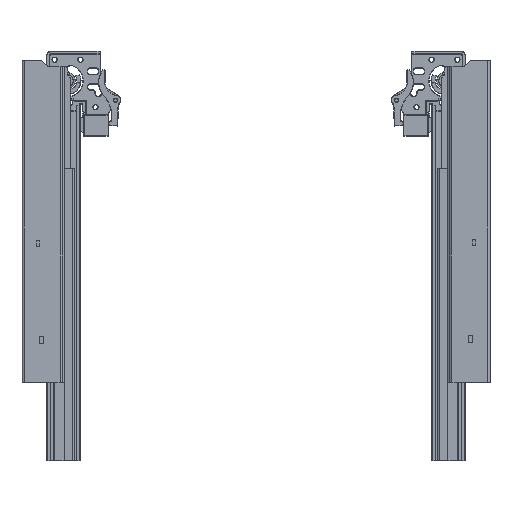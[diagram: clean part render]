
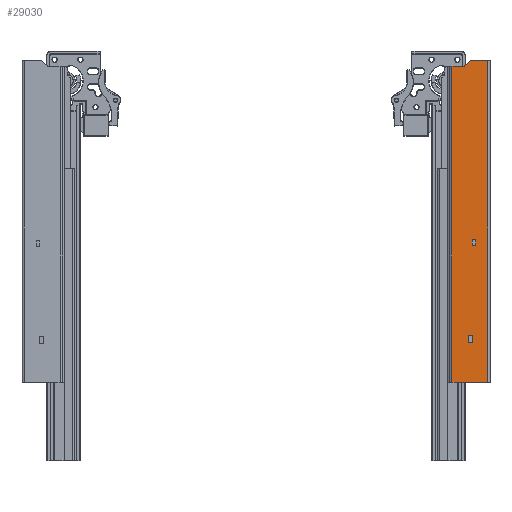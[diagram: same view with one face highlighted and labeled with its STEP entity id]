
A CAD part, front view. The second image highlights one B-rep face of the part: STEP entity #29030.
In plain terms, the highlighted planar face has unit normal (0, -1, 0).
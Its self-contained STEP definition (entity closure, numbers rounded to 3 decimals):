
#877=FACE_BOUND('',#6063,.T.);
#878=FACE_BOUND('',#6064,.T.);
#1187=CIRCLE('',#31018,2.);
#1189=CIRCLE('',#31022,2.);
#4128=FACE_OUTER_BOUND('',#6062,.T.);
#6062=EDGE_LOOP('',(#18963,#18964,#18965,#18966,#18967,#18968,#18969,#18970));
#6063=EDGE_LOOP('',(#18971,#18972,#18973,#18974));
#6064=EDGE_LOOP('',(#18975,#18976,#18977,#18978));
#8121=LINE('',#45211,#10031);
#8125=LINE('',#45219,#10035);
#8128=LINE('',#45225,#10038);
#8131=LINE('',#45230,#10041);
#8133=LINE('',#45236,#10043);
#8137=LINE('',#45244,#10047);
#8140=LINE('',#45250,#10050);
#8143=LINE('',#45255,#10053);
#8161=LINE('',#45312,#10071);
#8180=LINE('',#45364,#10090);
#8183=LINE('',#45375,#10093);
#8184=LINE('',#45378,#10094);
#8185=LINE('',#45380,#10095);
#8186=LINE('',#45381,#10096);
#10031=VECTOR('',#35344,5.);
#10035=VECTOR('',#35350,3.);
#10038=VECTOR('',#35355,5.);
#10041=VECTOR('',#35360,3.);
#10043=VECTOR('',#35366,6.);
#10047=VECTOR('',#35372,3.5);
#10050=VECTOR('',#35377,6.);
#10053=VECTOR('',#35382,3.5);
#10071=VECTOR('',#35436,5.414);
#10090=VECTOR('',#35481,9.672);
#10093=VECTOR('',#35492,270.);
#10094=VECTOR('',#35495,30.5);
#10095=VECTOR('',#35496,275.);
#10096=VECTOR('',#35497,14.172);
#11983=VERTEX_POINT('',#45209);
#11984=VERTEX_POINT('',#45210);
#11987=VERTEX_POINT('',#45218);
#11989=VERTEX_POINT('',#45224);
#11991=VERTEX_POINT('',#45234);
#11992=VERTEX_POINT('',#45235);
#11995=VERTEX_POINT('',#45243);
#11997=VERTEX_POINT('',#45249);
#12017=VERTEX_POINT('',#45305);
#12018=VERTEX_POINT('',#45307);
#12019=VERTEX_POINT('',#45311);
#12022=VERTEX_POINT('',#45319);
#12039=VERTEX_POINT('',#45362);
#12043=VERTEX_POINT('',#45373);
#12044=VERTEX_POINT('',#45377);
#12045=VERTEX_POINT('',#45379);
#14473=EDGE_CURVE('',#11983,#11984,#8121,.T.);
#14477=EDGE_CURVE('',#11984,#11987,#8125,.T.);
#14480=EDGE_CURVE('',#11987,#11989,#8128,.T.);
#14483=EDGE_CURVE('',#11989,#11983,#8131,.T.);
#14485=EDGE_CURVE('',#11991,#11992,#8133,.T.);
#14489=EDGE_CURVE('',#11992,#11995,#8137,.T.);
#14492=EDGE_CURVE('',#11995,#11997,#8140,.T.);
#14495=EDGE_CURVE('',#11997,#11991,#8143,.T.);
#14520=EDGE_CURVE('',#12018,#12017,#1187,.T.);
#14522=EDGE_CURVE('',#12018,#12019,#8161,.T.);
#14526=EDGE_CURVE('',#12022,#12019,#1189,.T.);
#14548=EDGE_CURVE('',#12039,#12017,#8180,.T.);
#14554=EDGE_CURVE('',#12039,#12043,#8183,.T.);
#14555=EDGE_CURVE('',#12043,#12044,#8184,.T.);
#14556=EDGE_CURVE('',#12045,#12044,#8185,.T.);
#14557=EDGE_CURVE('',#12045,#12022,#8186,.T.);
#18963=ORIENTED_EDGE('',*,*,#14526,.T.);
#18964=ORIENTED_EDGE('',*,*,#14522,.F.);
#18965=ORIENTED_EDGE('',*,*,#14520,.T.);
#18966=ORIENTED_EDGE('',*,*,#14548,.F.);
#18967=ORIENTED_EDGE('',*,*,#14554,.T.);
#18968=ORIENTED_EDGE('',*,*,#14555,.T.);
#18969=ORIENTED_EDGE('',*,*,#14556,.F.);
#18970=ORIENTED_EDGE('',*,*,#14557,.T.);
#18971=ORIENTED_EDGE('',*,*,#14473,.T.);
#18972=ORIENTED_EDGE('',*,*,#14477,.T.);
#18973=ORIENTED_EDGE('',*,*,#14480,.T.);
#18974=ORIENTED_EDGE('',*,*,#14483,.T.);
#18975=ORIENTED_EDGE('',*,*,#14485,.T.);
#18976=ORIENTED_EDGE('',*,*,#14489,.T.);
#18977=ORIENTED_EDGE('',*,*,#14492,.T.);
#18978=ORIENTED_EDGE('',*,*,#14495,.T.);
#26663=PLANE('',#31037);
#29030=ADVANCED_FACE('',(#4128,#877,#878),#26663,.F.);
#31018=AXIS2_PLACEMENT_3D('',#45308,#35431,#35432);
#31022=AXIS2_PLACEMENT_3D('',#45320,#35443,#35444);
#31037=AXIS2_PLACEMENT_3D('',#45376,#35493,#35494);
#35344=DIRECTION('',(0.,0.,1.));
#35350=DIRECTION('',(1.,0.,0.));
#35355=DIRECTION('',(0.,0.,-1.));
#35360=DIRECTION('',(-1.,0.,0.));
#35366=DIRECTION('',(0.,0.,1.));
#35372=DIRECTION('',(1.,0.,0.));
#35377=DIRECTION('',(0.,0.,-1.));
#35382=DIRECTION('',(-1.,0.,0.));
#35431=DIRECTION('center_axis',(0.,1.,0.));
#35432=DIRECTION('ref_axis',(0.383,0.,-0.924));
#35436=DIRECTION('',(0.707,0.,0.707));
#35443=DIRECTION('center_axis',(0.,-1.,0.));
#35444=DIRECTION('ref_axis',(-0.383,0.,0.924));
#35481=DIRECTION('',(1.,0.,0.));
#35492=DIRECTION('',(0.,0.,-1.));
#35493=DIRECTION('center_axis',(0.,1.,0.));
#35494=DIRECTION('ref_axis',(1.,0.,0.));
#35495=DIRECTION('',(1.,0.,0.));
#35496=DIRECTION('',(0.,0.,-1.));
#35497=DIRECTION('',(-1.,0.,0.));
#45209=CARTESIAN_POINT('',(-15.,0.,-158.));
#45210=CARTESIAN_POINT('',(-15.,0.,-153.));
#45211=CARTESIAN_POINT('',(-15.,0.,-76.5));
#45218=CARTESIAN_POINT('',(-12.,0.,-153.));
#45219=CARTESIAN_POINT('',(-22.25,0.,-153.));
#45224=CARTESIAN_POINT('',(-12.,0.,-158.));
#45225=CARTESIAN_POINT('',(-12.,0.,-79.));
#45230=CARTESIAN_POINT('',(-23.75,0.,-158.));
#45234=CARTESIAN_POINT('',(-18.5,0.,-241.));
#45235=CARTESIAN_POINT('',(-18.5,0.,-235.));
#45236=CARTESIAN_POINT('',(-18.5,0.,-117.5));
#45243=CARTESIAN_POINT('',(-15.,0.,-235.));
#45244=CARTESIAN_POINT('',(-23.75,0.,-235.));
#45249=CARTESIAN_POINT('',(-15.,0.,-241.));
#45250=CARTESIAN_POINT('',(-15.,0.,-120.5));
#45255=CARTESIAN_POINT('',(-25.5,0.,-241.));
#45305=CARTESIAN_POINT('',(-22.828,0.,-5.));
#45307=CARTESIAN_POINT('',(-21.414,0.,-4.414));
#45308=CARTESIAN_POINT('Origin',(-22.828,0.,
-3.));
#45311=CARTESIAN_POINT('',(-17.586,0.,-0.586));
#45312=CARTESIAN_POINT('',(-23.375,0.,-6.375));
#45319=CARTESIAN_POINT('',(-16.172,0.,0.));
#45320=CARTESIAN_POINT('Origin',(-16.172,0.,
-2.));
#45362=CARTESIAN_POINT('',(-32.5,0.,-5.));
#45364=CARTESIAN_POINT('',(-35.75,0.,-5.));
#45373=CARTESIAN_POINT('',(-32.5,0.,-275.));
#45375=CARTESIAN_POINT('',(-32.5,0.,0.));
#45376=CARTESIAN_POINT('Origin',(-32.5,0.,0.));
#45377=CARTESIAN_POINT('',(-2.,0.,-275.));
#45378=CARTESIAN_POINT('',(-2.,0.,-275.));
#45379=CARTESIAN_POINT('',(-2.,0.,0.));
#45380=CARTESIAN_POINT('',(-2.,0.,0.));
#45381=CARTESIAN_POINT('',(-2.,0.,0.));
